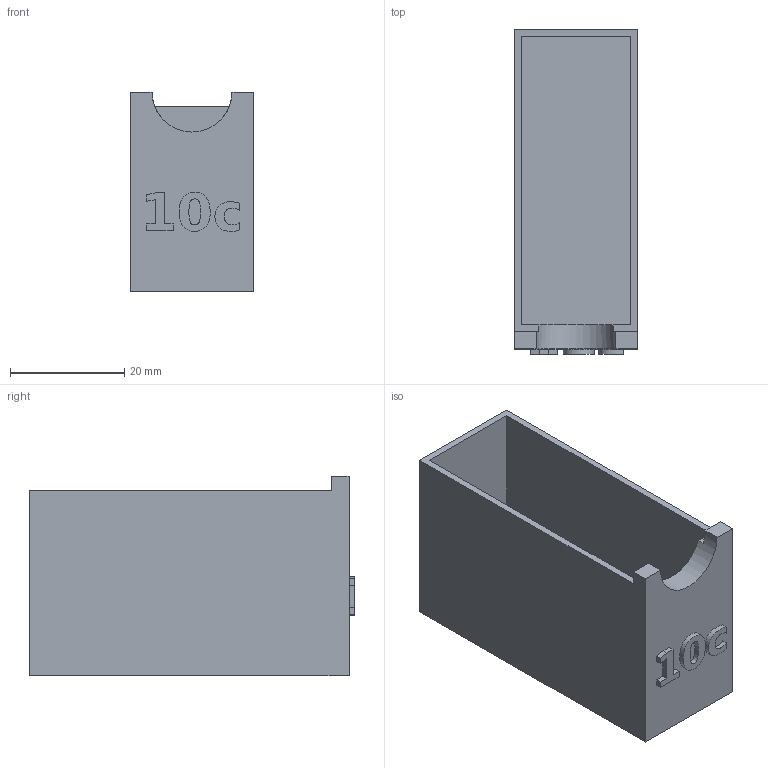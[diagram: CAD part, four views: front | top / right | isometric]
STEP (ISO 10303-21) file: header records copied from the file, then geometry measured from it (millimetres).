
FILE_DESCRIPTION(('Open CASCADE Model'),'2;1');
FILE_NAME('Open CASCADE Shape Model','2026-10-20T15:47:44',('Author'),( 'Open CASCADE'),'Open CASCADE STEP processor 8.0','build123d', 'Unknown');
FILE_SCHEMA(('AUTOMOTIVE_DESIGN { 1 0 10303 214 1 1 1 1 }'));
Length unit declared in the file: millimetre
Products named in the file (2): =>[0:1:1:2]; COMPOUND
Assembly tree (1 placements, depth 2):
  =>[0:1:1:2]
    COMPOUND
Bounding box: 21.59 x 56.84 x 35 mm (x, y, z)
Volume: 8821.3 mm3; surface area: 11887.8 mm2
Topology: 1 solids, 1 shells, 37 faces, 93 edges, 62 vertices
Faces by surface type: plane 32, extrusion 4, cylinder 1
Entity records: 2472 total; most frequent: CARTESIAN_POINT 600, DIRECTION 321, VECTOR 243, LINE 239, ORIENTED_EDGE 186, PCURVE 186, DEFINITIONAL_REPRESENTATION 186, EDGE_CURVE 93
